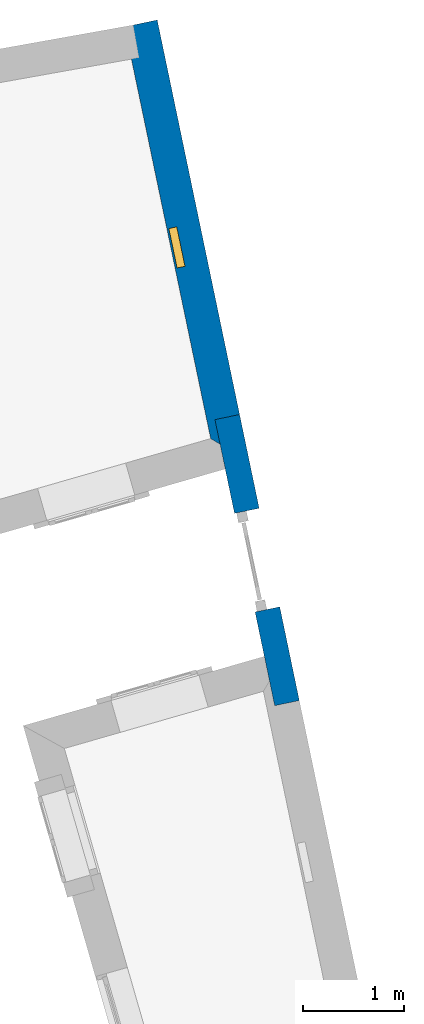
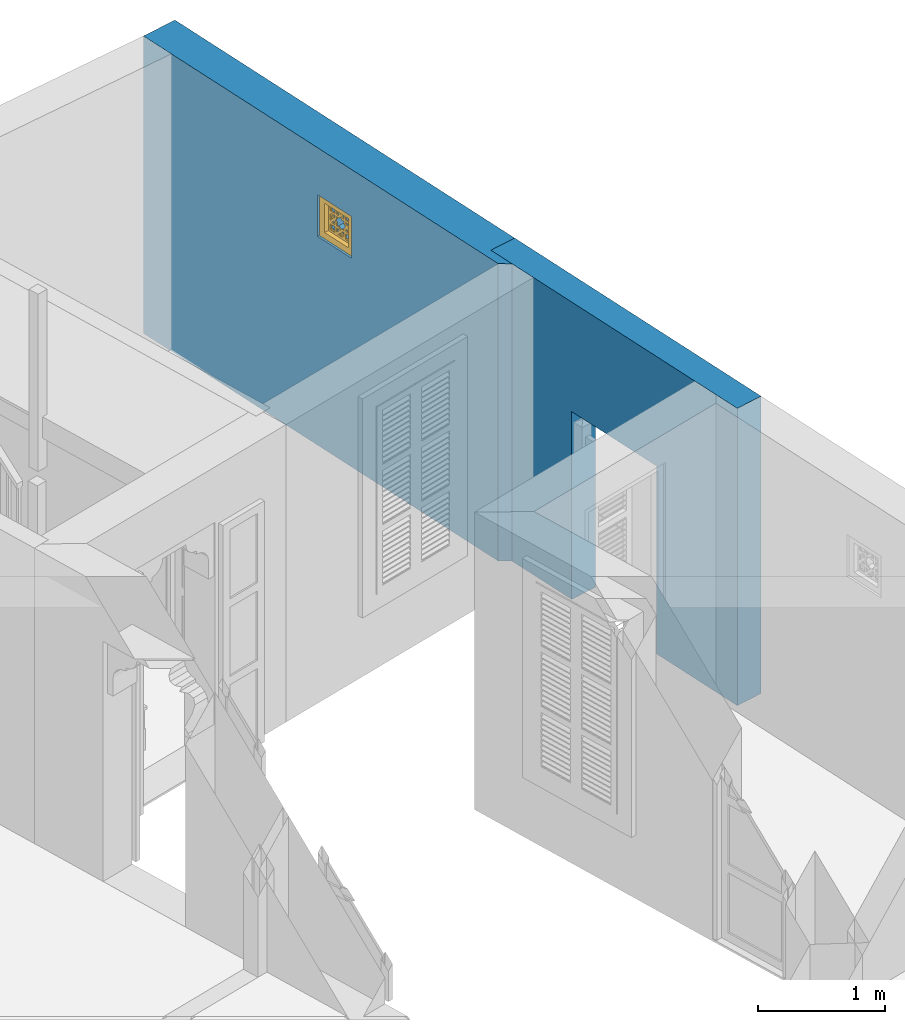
# One storey, part 14 of 16: 2 walls, 1 window, 2 openings.
"""IFC4 building model written with IfcOpenShell, lengths in metres."""

from ifc_helpers import new_model, si_unit, frame, origin, origin_with_axes, place, context, subcontext, project, spatial, polyline, outline, extrude, faceted_brep, source, transform, mapped, material, layer, layer_set, layer_usage, type_object, type_shapes, element, fill, save


model = new_model("IFC4")

# Units and contexts
model_context = context("Model", 3, world=origin_with_axes())
body_context = subcontext(model_context, "Body", "Model", "MODEL_VIEW")
ifc_project = project(units=[si_unit("PLANEANGLEUNIT", "RADIAN"), si_unit("MASSUNIT", "GRAM", prefix="KILO"), si_unit("FORCEUNIT", "NEWTON", prefix="KILO"), si_unit("LENGTHUNIT", "METRE"), si_unit("AREAUNIT", "SQUARE_METRE"), si_unit("VOLUMEUNIT", "CUBIC_METRE")], contexts=[model_context, model_context])

# Site, building, storey
site_placement = place(None, origin_with_axes())
site = spatial("IfcSite", under=ifc_project, at=site_placement, Name="Site plot-9", CompositionType="ELEMENT")
building_placement = place(None, origin_with_axes())
building = spatial("IfcBuilding", under=site, at=building_placement, Name="Building plot-9", CompositionType="ELEMENT")
storey_placement = place(None, origin_with_axes())
storey = spatial("IfcBuildingStorey", under=building, at=storey_placement, Name="plot-9 0", CompositionType="ELEMENT", Elevation=0.0)

# Wall, opening, window
ifc_material_1 = material(Name="Masonry")
ifc_layer_1 = layer(ifc_material_1, 0.33, ventilated=False)
ifc_layer_set_1 = layer_set([ifc_layer_1], Name="exterior_0.08_0.25")
ifc_layer_usage_1 = layer_usage(ifc_layer_set_1, "AXIS2", "POSITIVE", -0.25)
wall_type_1 = type_object("IfcWallType", Name="exterior_0.08_0.25", PredefinedType="SOLIDWALL", material=ifc_layer_set_1)
wall_1_placement = place(storey_placement, frame((-13.6474758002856, 5.15611409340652, 0.0), z_axis=(0.0, 0.0, 1.0), x_axis=(-0.204381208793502, 0.978891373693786, 0.0)))
wall_1 = element("IfcWall", 1, at=wall_1_placement, inside=storey, type_object=wall_type_1, material=ifc_layer_usage_1, Name="exterior", context=body_context, shape_type="SweptSolid", body=[
    extrude(outline(polyline([(0.0742631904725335, 0.0800000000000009), (-0.232072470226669, -0.249999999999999), (4.25243090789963, -0.25), (4.25243090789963, 0.0799999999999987), (0.0742631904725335, 0.0800000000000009)])), origin_with_axes(), (0.0, 0.0, 1.0), 2.85),
])
opening_1_placement = place(wall_1_placement, frame((1.80121545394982, 0.0, 2.0)))
opening_1 = element("IfcOpeningElement", 2, at=opening_1_placement, cuts=wall_1, Name="My Opening", ObjectType="Opening", context=body_context, shape_type="SweptSolid", body=[
    extrude(outline(polyline([(0.0, -0.270000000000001), (0.4, -0.269999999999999), (0.4, 1.1), (0.0, 1.1), (0.0, -0.270000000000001)])), origin_with_axes(), (0.0, 0.0, 1.0), 0.4),
])
window_type = type_object("IfcWindowType", Name="barred_window", PartitioningType="DOUBLE_PANEL_HORIZONTAL", PredefinedType="NOTDEFINED")
shared_shape = source(origin(), body_context, "Body", "Brep", [
    faceted_brep([(0.4, 0.25, 0.4), (0.0, 0.25, 0.4), (0.06, 0.25, 0.34), (0.34, 0.25, 0.34), (0.06, 0.33, 0.34), (0.34, 0.33, 0.34), (0.34, 0.25, 0.06), (0.4, 0.25, 0.0), (0.4, 0.33, 0.4), (0.0, 0.33, 0.4), (0.0, 0.25, 0.0), (0.06, 0.25, 0.06), (0.06, 0.33, 0.06), (0.34, 0.33, 0.06), (0.4, 0.33, 0.0), (0.0, 0.33, 0.0), (0.136152, 0.28, 0.08), (0.08, 0.28, 0.08), (0.06, 0.28, 0.06), (0.136152, 0.28, 0.06), (0.136152, 0.29, 0.08), (0.08, 0.29, 0.08), (0.06, 0.28, 0.136152), (0.08, 0.28, 0.136152), (0.06, 0.29, 0.06), (0.136152, 0.29, 0.06), (0.170294, 0.28, 0.08), (0.170294, 0.28, 0.06), (0.136152, 0.28, 0.136152), (0.136152, 0.29, 0.136152), (0.08, 0.29, 0.136152), (0.06, 0.29, 0.136152), (0.08, 0.28, 0.170294), (0.06, 0.28, 0.170294), (0.170294, 0.29, 0.06), (0.229706, 0.28, 0.08), (0.229706, 0.28, 0.06), (0.156152, 0.28, 0.094142), (0.156152, 0.28, 0.136152), (0.185858, 0.28, 0.123848), (0.185858, 0.29, 0.123848), (0.156152, 0.29, 0.094142), (0.156152, 0.29, 0.136152), (0.229706, 0.29, 0.08), (0.170294, 0.29, 0.08), (0.2, 0.28, 0.109706), (0.2, 0.29, 0.109706), (0.06, 0.29, 0.170294), (0.094142, 0.28, 0.156152), (0.08, 0.28, 0.229706), (0.06, 0.28, 0.229706), (0.229706, 0.29, 0.06), (0.263848, 0.28, 0.08), (0.263848, 0.28, 0.06), (0.156152, 0.28, 0.156152), (0.136152, 0.28, 0.156152), (0.173553, 0.28, 0.136152), (0.173553, 0.29, 0.136152), (0.156152, 0.29, 0.156152), (0.136152, 0.29, 0.156152), (0.094142, 0.29, 0.156152), (0.08, 0.29, 0.170294), (0.06, 0.29, 0.229706), (0.123848, 0.28, 0.185858), (0.109706, 0.28, 0.2), (0.08, 0.29, 0.229706), (0.08, 0.28, 0.263848), (0.06, 0.28, 0.263848), (0.263848, 0.29, 0.06), (0.2, 0.28, 0.13799), (0.214142, 0.28, 0.123848), (0.34, 0.28, 0.06), (0.32, 0.28, 0.08), (0.181838, 0.28, 0.156152), (0.136152, 0.28, 0.173553), (0.156152, 0.28, 0.181838), (0.181838, 0.29, 0.156152), (0.2, 0.29, 0.13799), (0.214142, 0.29, 0.123848), (0.136152, 0.29, 0.173553), (0.156152, 0.29, 0.181838), (0.243848, 0.28, 0.094142), (0.243848, 0.29, 0.094142), (0.263848, 0.28, 0.136152), (0.263848, 0.29, 0.08), (0.263848, 0.29, 0.136152), (0.32, 0.29, 0.08), (0.243848, 0.28, 0.136152), (0.243848, 0.29, 0.136152), (0.06, 0.29, 0.263848), (0.123848, 0.29, 0.185858), (0.13799, 0.28, 0.2), (0.123848, 0.28, 0.214142), (0.109706, 0.29, 0.2), (0.094142, 0.28, 0.243848), (0.08, 0.28, 0.32), (0.06, 0.28, 0.34), (0.34, 0.29, 0.06), (0.218162, 0.28, 0.156152), (0.226447, 0.28, 0.136152), (0.34, 0.28, 0.229706), (0.32, 0.28, 0.229706), (0.32, 0.28, 0.170294), (0.32, 0.28, 0.136152), (0.218162, 0.29, 0.156152), (0.226447, 0.29, 0.136152), (0.13799, 0.29, 0.2), (0.32, 0.29, 0.136152), (0.08, 0.29, 0.263848), (0.06, 0.29, 0.34), (0.136152, 0.28, 0.226447), (0.156152, 0.28, 0.218162), (0.094142, 0.29, 0.243848), (0.123848, 0.29, 0.214142), (0.136152, 0.28, 0.243848), (0.136152, 0.28, 0.263848), (0.08, 0.29, 0.32), (0.136152, 0.28, 0.34), (0.136152, 0.28, 0.32), (0.34, 0.29, 0.229706), (0.243848, 0.28, 0.156152), (0.263848, 0.28, 0.156152), (0.34, 0.28, 0.263848), (0.32, 0.28, 0.263848), (0.32, 0.29, 0.229706), (0.32, 0.29, 0.170294), (0.290294, 0.28, 0.2), (0.276152, 0.28, 0.185858), (0.305858, 0.28, 0.156152), (0.243848, 0.29, 0.156152), (0.263848, 0.29, 0.156152), (0.305858, 0.29, 0.156152), (0.276152, 0.29, 0.185858), (0.290294, 0.29, 0.2), (0.136152, 0.29, 0.34), (0.136152, 0.29, 0.226447), (0.156152, 0.29, 0.218162), (0.156152, 0.28, 0.243848), (0.136152, 0.29, 0.243848), (0.156152, 0.28, 0.263848), (0.136152, 0.29, 0.263848), (0.136152, 0.29, 0.32), (0.170294, 0.28, 0.32), (0.170294, 0.28, 0.34), (0.34, 0.29, 0.263848), (0.243848, 0.28, 0.181838), (0.263848, 0.28, 0.173553), (0.34, 0.28, 0.34), (0.32, 0.28, 0.32), (0.305858, 0.28, 0.243848), (0.276152, 0.28, 0.214142), (0.26201, 0.28, 0.2), (0.243848, 0.29, 0.181838), (0.263848, 0.29, 0.173553), (0.26201, 0.29, 0.2), (0.276152, 0.29, 0.214142), (0.32, 0.29, 0.263848), (0.170294, 0.29, 0.34), (0.156152, 0.29, 0.243848), (0.173553, 0.28, 0.263848), (0.181838, 0.28, 0.243848), (0.156152, 0.28, 0.305858), (0.229706, 0.28, 0.32), (0.229706, 0.28, 0.34), (0.34, 0.29, 0.34), (0.263848, 0.28, 0.34), (0.263848, 0.28, 0.32), (0.32, 0.29, 0.32), (0.263848, 0.28, 0.263848), (0.263848, 0.28, 0.243848), (0.305858, 0.29, 0.243848), (0.263848, 0.28, 0.226447), (0.243848, 0.28, 0.218162), (0.243848, 0.29, 0.218162), (0.263848, 0.29, 0.226447), (0.156152, 0.29, 0.263848), (0.170294, 0.29, 0.32), (0.229706, 0.29, 0.34), (0.181838, 0.29, 0.243848), (0.173553, 0.29, 0.263848), (0.185858, 0.28, 0.276152), (0.2, 0.28, 0.26201), (0.156152, 0.29, 0.305858), (0.229706, 0.29, 0.32), (0.263848, 0.29, 0.34), (0.263848, 0.29, 0.32), (0.263848, 0.29, 0.263848), (0.243848, 0.28, 0.243848), (0.243848, 0.28, 0.263848), (0.263848, 0.29, 0.243848), (0.243848, 0.29, 0.243848), (0.2, 0.29, 0.26201), (0.185858, 0.29, 0.276152), (0.214142, 0.28, 0.276152), (0.218162, 0.28, 0.243848), (0.226447, 0.28, 0.263848), (0.243848, 0.28, 0.305858), (0.2, 0.28, 0.290294), (0.2, 0.29, 0.290294), (0.243848, 0.29, 0.263848), (0.218162, 0.29, 0.243848), (0.214142, 0.29, 0.276152), (0.226447, 0.29, 0.263848), (0.243848, 0.29, 0.305858)], [[[0, 1, 2, 3]], [[3, 2, 4, 5]], [[3, 6, 7, 0]], [[1, 0, 8, 9]], [[1, 10, 11, 2]], [[2, 11, 12, 4]], [[9, 8, 5, 4]], [[6, 3, 5, 13]], [[6, 11, 10, 7]], [[0, 7, 14, 8]], [[10, 1, 9, 15]], [[11, 6, 13, 12]], [[4, 12, 15, 9]], [[8, 14, 13, 5]], [[7, 10, 15, 14]], [[12, 13, 14, 15]], [[16, 17, 18, 19]], [[17, 16, 20, 21]], [[22, 18, 17, 23]], [[19, 18, 24, 25]], [[26, 16, 19, 27]], [[16, 28, 29, 20]], [[21, 20, 25, 24]], [[23, 17, 21, 30]], [[18, 22, 31, 24]], [[23, 32, 33, 22]], [[27, 19, 25, 34]], [[35, 26, 27, 36]], [[28, 16, 37, 38]], [[37, 39, 40, 41]], [[38, 37, 41, 42]], [[20, 29, 42, 41]], [[26, 35, 43, 44]], [[45, 26, 44, 46]], [[20, 44, 34, 25]], [[28, 23, 30, 29]], [[24, 31, 30, 21]], [[22, 33, 47, 31]], [[48, 32, 23]], [[32, 49, 50, 33]], [[36, 27, 34, 51]], [[39, 37, 26, 45]], [[52, 35, 36, 53]], [[38, 54, 55, 28]], [[39, 56, 57, 40]], [[41, 40, 46, 44]], [[56, 38, 42, 57]], [[58, 42, 29, 59]], [[35, 45, 46, 43]], [[44, 43, 51, 34]], [[23, 28, 55, 48]], [[29, 30, 60, 59]], [[61, 30, 31, 47]], [[33, 50, 62, 47]], [[48, 63, 64, 32]], [[49, 32, 61, 65]], [[49, 66, 67, 50]], [[53, 36, 51, 68]], [[69, 39, 45, 70]], [[53, 71, 72, 52]], [[73, 54, 38, 56]], [[74, 55, 54, 75]], [[56, 39, 69, 73]], [[40, 57, 76, 77]], [[40, 77, 78, 46]], [[58, 76, 57, 42]], [[59, 79, 80, 58]], [[45, 35, 81, 70]], [[43, 46, 78, 82]], [[83, 52, 84, 85]], [[82, 84, 43]], [[52, 72, 86, 84]], [[43, 84, 68, 51]], [[44, 20, 41]], [[70, 81, 82, 78]], [[81, 87, 88, 82]], [[48, 55, 59, 60]], [[61, 60, 30]], [[65, 61, 47, 62]], [[50, 67, 89, 62]], [[63, 48, 60, 90]], [[63, 91, 92, 64]], [[32, 64, 93, 61]], [[64, 49, 65, 93]], [[94, 66, 49]], [[66, 95, 96, 67]], [[71, 53, 68, 97]], [[98, 69, 70, 99]], [[81, 52, 83, 87]], [[72, 71, 100]], [[100, 101, 102]], [[103, 72, 100]], [[100, 102, 103]], [[54, 73, 76, 58]], [[55, 74, 79, 59]], [[75, 54, 58, 80]], [[63, 74, 75, 91]], [[73, 69, 77, 76]], [[77, 104, 105, 78]], [[79, 90, 106, 80]], [[84, 82, 88, 85]], [[103, 83, 85, 107]], [[72, 103, 107, 86]], [[97, 68, 84, 86]], [[99, 70, 78, 105]], [[87, 99, 105, 88]], [[90, 60, 61, 93]], [[108, 65, 62, 89]], [[67, 96, 109, 89]], [[74, 63, 90, 79]], [[110, 92, 91, 111]], [[49, 64, 92, 94]], [[93, 65, 112, 113]], [[94, 114, 115, 66]], [[95, 66, 108, 116]], [[117, 96, 95, 118]], [[100, 71, 97, 119]], [[69, 98, 104, 77]], [[99, 87, 120, 98]], [[87, 83, 121, 120]], [[101, 100, 122, 123]], [[102, 101, 124, 125]], [[121, 83, 103]], [[103, 102, 126]], [[126, 127, 128]], [[128, 121, 103]], [[103, 126, 128]], [[91, 75, 80, 106]], [[88, 105, 104, 129]], [[106, 90, 93, 113]], [[85, 88, 129, 130]], [[107, 85, 130]], [[131, 132, 133]], [[107, 130, 131]], [[133, 125, 107]], [[107, 131, 133]], [[124, 119, 97]], [[97, 86, 107]], [[107, 125, 124]], [[97, 107, 124]], [[108, 112, 65]], [[116, 108, 89, 109]], [[96, 117, 134, 109]], [[92, 110, 135, 113]], [[111, 91, 106, 136]], [[114, 110, 111, 137]], [[94, 92, 113, 112]], [[114, 94, 112, 138]], [[114, 137, 139, 115]], [[66, 115, 140, 108]], [[118, 95, 116, 141]], [[118, 142, 143, 117]], [[122, 100, 119, 144]], [[98, 120, 129, 104]], [[145, 120, 121, 146]], [[122, 147, 148, 123]], [[123, 149, 101]], [[101, 126, 133, 124]], [[126, 102, 125, 133]], [[127, 126, 150, 151]], [[128, 127, 132, 131]], [[121, 128, 131, 130]], [[113, 135, 136, 106]], [[129, 152, 153, 130]], [[133, 132, 154, 155]], [[119, 124, 156, 144]], [[138, 112, 108, 140]], [[109, 134, 141, 116]], [[117, 143, 157, 134]], [[110, 114, 138, 135]], [[137, 111, 136, 158]], [[159, 139, 137, 160]], [[118, 115, 139, 161]], [[115, 118, 141, 140]], [[161, 142, 118]], [[162, 163, 143, 142]], [[147, 122, 144, 164]], [[120, 145, 152, 129]], [[146, 121, 130, 153]], [[146, 127, 151, 145]], [[147, 165, 166, 148]], [[123, 148, 167, 156]], [[149, 123, 168, 169]], [[149, 150, 126, 101]], [[155, 170, 124, 133]], [[151, 150, 171, 172]], [[127, 146, 153, 132]], [[135, 138, 158, 136]], [[132, 153, 152, 154]], [[155, 154, 173, 174]], [[170, 156, 124]], [[164, 144, 156, 167]], [[158, 138, 140, 175]], [[176, 141, 134, 157]], [[143, 163, 177, 157]], [[160, 137, 158, 178]], [[139, 159, 179, 175]], [[180, 159, 160, 181]], [[161, 139, 175, 182]], [[140, 141, 182, 175]], [[166, 165, 163, 162]], [[162, 142, 176, 183]], [[165, 147, 164, 184]], [[145, 151, 154, 152]], [[148, 166, 185, 167]], [[156, 186, 168, 123]], [[187, 169, 168, 188]], [[149, 169, 189, 170]], [[150, 149, 170, 155]], [[171, 150, 155, 174]], [[171, 169, 187, 172]], [[151, 172, 173, 154]], [[189, 174, 173, 190]], [[156, 170, 189, 186]], [[184, 164, 167, 185]], [[175, 179, 178, 158]], [[176, 182, 141]], [[177, 183, 176, 157]], [[163, 165, 184, 177]], [[181, 160, 178, 191]], [[159, 180, 192, 179]], [[180, 161, 182, 192]], [[193, 181, 194, 195]], [[196, 162, 197, 193]], [[180, 197, 142, 161]], [[197, 180, 181, 193]], [[142, 197, 198, 176]], [[162, 196, 166]], [[35, 52, 81]], [[197, 162, 183, 198]], [[185, 166, 168, 186]], [[196, 188, 168, 166]], [[187, 188, 195, 194]], [[169, 171, 174, 189]], [[172, 187, 190, 173]], [[189, 190, 199, 186]], [[184, 185, 183, 177]], [[179, 192, 191, 178]], [[176, 198, 192, 182]], [[194, 181, 191, 200]], [[191, 192, 198, 201]], [[26, 37, 16]], [[193, 195, 202, 201]], [[196, 193, 201, 203]], [[191, 201, 202, 200]], [[183, 203, 201, 198]], [[188, 196, 203, 199]], [[203, 183, 185]], [[199, 203, 185, 186]], [[195, 188, 199, 202]], [[187, 194, 200, 190]], [[199, 190, 200, 202]]]),
])
type_shapes(window_type, [shared_shape])
window_placement = place(storey_placement, frame((-13.7513097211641, 6.97449128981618, 2.0), z_axis=(0.0, 0.0, 1.0), x_axis=(-0.0817524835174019, 0.391556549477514, 0.0)))
window = element("IfcWindow", 3, at=window_placement, inside=storey, type_object=window_type, Name="toilet street window", OverallHeight=0.4, OverallWidth=0.4, context=body_context, shape_type="MappedRepresentation", body=[
    mapped(shared_shape, transform((0.0, 0.0, 0.0), scale=1.0)),
])
fill(opening_1, window)

# Wall, opening
ifc_material_2 = material(Name="Masonry")
ifc_layer_2 = layer(ifc_material_2, 0.25, ventilated=False)
ifc_layer_set_2 = layer_set([ifc_layer_2], Name="fence_0_0.25")
ifc_layer_usage_2 = layer_usage(ifc_layer_set_2, "AXIS2", "POSITIVE", -0.25)
wall_type_2 = type_object("IfcWallType", Name="fence_0_0.25", PredefinedType="SOLIDWALL", material=ifc_layer_set_2)
wall_2_placement = place(storey_placement, frame((-13.1564729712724, 2.80443784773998, 0.0), z_axis=(0.0, 0.0, 1.0), x_axis=(-0.204381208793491, 0.978891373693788, 0.0)))
wall_2 = element("IfcWall", 4, at=wall_2_placement, inside=storey, type_object=wall_type_2, material=ifc_layer_usage_2, Name="fence", context=body_context, shape_type="SweptSolid", body=[
    extrude(outline(polyline([(-0.25, -2.52660774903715e-16), (-0.25, -0.250000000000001), (2.65238734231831, -0.25), (2.65238734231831, 5.88948299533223e-16), (-0.25, -2.52660774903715e-16)])), origin_with_axes(), (0.0, 0.0, 1.0), 2.85),
])
opening_2_placement = place(wall_2_placement, frame((0.701193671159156, 0.0, -0.01)))
element("IfcOpeningElement", 5, at=opening_2_placement, cuts=wall_2, Name="My Opening", ObjectType="Opening", context=body_context, shape_type="SweptSolid", body=[
    extrude(outline(polyline([(0.0, -0.269999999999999), (1.0, -0.27), (1.0, 1.02), (2.22044604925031e-16, 1.02), (0.0, -0.269999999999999)])), origin_with_axes(), (0.0, 0.0, 1.0), 1.81),
])

save(model, "model.ifc")
